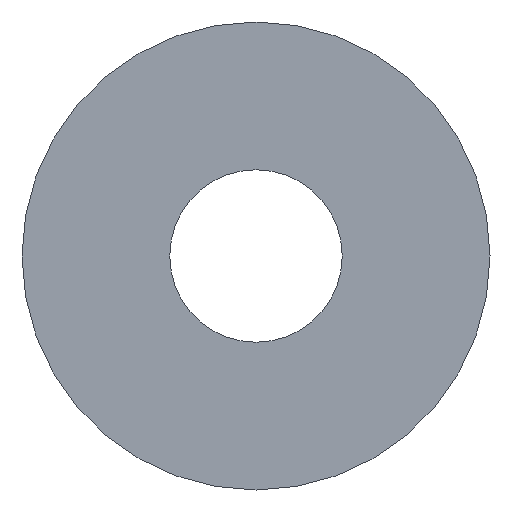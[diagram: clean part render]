
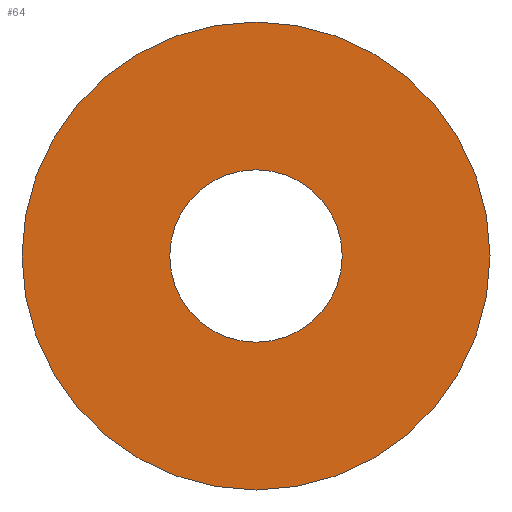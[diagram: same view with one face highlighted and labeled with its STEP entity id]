
A CAD part, front view. The second image highlights one B-rep face of the part: STEP entity #64.
In plain terms, the highlighted planar face has unit normal (0, -1, 0).
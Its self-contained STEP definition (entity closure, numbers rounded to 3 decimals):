
#16=FACE_BOUND('',#28,.T.);
#18=PLANE('',#86);
#22=FACE_OUTER_BOUND('',#27,.T.);
#27=EDGE_LOOP('',(#57));
#28=EDGE_LOOP('',(#58));
#34=CIRCLE('',#81,1.75);
#36=CIRCLE('',#84,4.75);
#38=VERTEX_POINT('',#111);
#40=VERTEX_POINT('',#117);
#43=EDGE_CURVE('',#38,#38,#34,.T.);
#46=EDGE_CURVE('',#40,#40,#36,.T.);
#57=ORIENTED_EDGE('',*,*,#46,.F.);
#58=ORIENTED_EDGE('',*,*,#43,.F.);
#64=ADVANCED_FACE('',(#22,#16),#18,.F.);
#81=AXIS2_PLACEMENT_3D('',#113,#94,#95);
#84=AXIS2_PLACEMENT_3D('',#119,#101,#102);
#86=AXIS2_PLACEMENT_3D('',#121,#105,#106);
#94=DIRECTION('center_axis',(0.,-1.,0.));
#95=DIRECTION('ref_axis',(1.,0.,0.));
#101=DIRECTION('center_axis',(0.,1.,0.));
#102=DIRECTION('ref_axis',(1.,0.,0.));
#105=DIRECTION('center_axis',(0.,1.,0.));
#106=DIRECTION('ref_axis',(1.,0.,0.));
#111=CARTESIAN_POINT('',(-1.75,0.,0.));
#113=CARTESIAN_POINT('Origin',(0.,0.,0.));
#117=CARTESIAN_POINT('',(-4.75,0.,0.));
#119=CARTESIAN_POINT('Origin',(0.,0.,0.));
#121=CARTESIAN_POINT('Origin',(0.,0.,0.));
